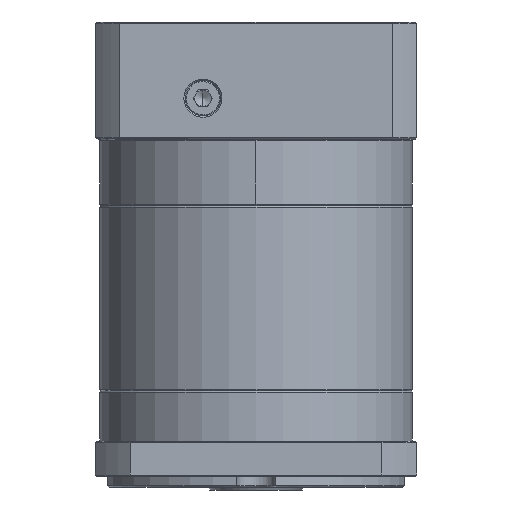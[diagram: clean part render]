
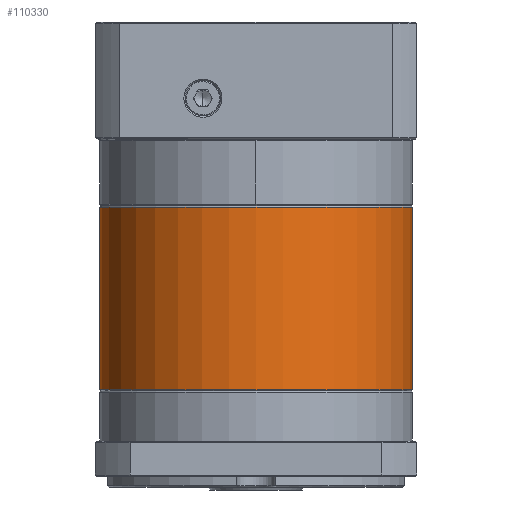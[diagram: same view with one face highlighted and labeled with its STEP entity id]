
A CAD part, front view. The second image highlights one B-rep face of the part: STEP entity #110330.
In plain terms, the highlighted cylindrical face has radius 57.5 mm (diameter 115 mm), a partial arc.
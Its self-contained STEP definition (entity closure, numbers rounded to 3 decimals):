
#1771 = AXIS2_PLACEMENT_3D ( 'NONE', #59932, #118672, #89712 ) ;
#6125 = DIRECTION ( 'NONE',  ( -1., 0., 0. ) ) ;
#9706 = CARTESIAN_POINT ( 'NONE',  ( 61.536, -22.058, -66.926 ) ) ;
#11504 = VERTEX_POINT ( 'NONE', #69268 ) ;
#18648 = DIRECTION ( 'NONE',  ( 0., 0., -1. ) ) ;
#19095 = EDGE_CURVE ( 'NONE', #11504, #117224, #102400, .T. ) ;
#22391 = ORIENTED_EDGE ( 'NONE', *, *, #19095, .F. ) ;
#26003 = VECTOR ( 'NONE', #111933, 1000. ) ;
#28612 = EDGE_CURVE ( 'NONE', #11504, #52255, #62742, .T. ) ;
#28792 = CARTESIAN_POINT ( 'NONE',  ( 119.036, 35.442, -134.138 ) ) ;
#29790 = VECTOR ( 'NONE', #18648, 1000. ) ;
#30755 = CARTESIAN_POINT ( 'NONE',  ( 4.036, 35.442, -134.138 ) ) ;
#33571 = DIRECTION ( 'NONE',  ( 0., 0., -1. ) ) ;
#33998 = CARTESIAN_POINT ( 'NONE',  ( 61.536, 35.442, -66.426 ) ) ;
#38346 = DIRECTION ( 'NONE',  ( -1., 0., 0. ) ) ;
#40270 = VERTEX_POINT ( 'NONE', #110395 ) ;
#46552 = ORIENTED_EDGE ( 'NONE', *, *, #53340, .T. ) ;
#52255 = VERTEX_POINT ( 'NONE', #9706 ) ;
#53340 = EDGE_CURVE ( 'NONE', #40270, #117641, #112630, .T. ) ;
#56429 = EDGE_LOOP ( 'NONE', ( #22391, #97720, #70170, #46552, #82018 ) ) ;
#57823 = CARTESIAN_POINT ( 'NONE',  ( 61.536, 35.442, -134.138 ) ) ;
#57977 = CARTESIAN_POINT ( 'NONE',  ( 119.036, 35.442, -66.426 ) ) ;
#58875 = AXIS2_PLACEMENT_3D ( 'NONE', #105416, #74324, #6125 ) ;
#59932 = CARTESIAN_POINT ( 'NONE',  ( 61.536, 35.442, -66.926 ) ) ;
#62742 = CIRCLE ( 'NONE', #58875, 57.5 ) ;
#69268 = CARTESIAN_POINT ( 'NONE',  ( 119.036, 35.442, -66.926 ) ) ;
#70170 = ORIENTED_EDGE ( 'NONE', *, *, #79948, .T. ) ;
#74324 = DIRECTION ( 'NONE',  ( 0., 0., -1. ) ) ;
#79948 = EDGE_CURVE ( 'NONE', #52255, #40270, #112789, .T. ) ;
#82018 = ORIENTED_EDGE ( 'NONE', *, *, #95721, .T. ) ;
#88846 = DIRECTION ( 'NONE',  ( 0., 0., 1. ) ) ;
#89712 = DIRECTION ( 'NONE',  ( -1., 0., 0. ) ) ;
#95721 = EDGE_CURVE ( 'NONE', #117641, #117224, #114222, .T. ) ;
#96176 = AXIS2_PLACEMENT_3D ( 'NONE', #33998, #33571, #101392 ) ;
#97720 = ORIENTED_EDGE ( 'NONE', *, *, #28612, .T. ) ;
#101392 = DIRECTION ( 'NONE',  ( -1., 0., 0. ) ) ;
#102400 = LINE ( 'NONE', #57977, #29790 ) ;
#105416 = CARTESIAN_POINT ( 'NONE',  ( 61.536, 35.442, -66.926 ) ) ;
#110330 = ADVANCED_FACE ( 'NONE', ( #122334 ), #116168, .T. ) ;
#110395 = CARTESIAN_POINT ( 'NONE',  ( 4.036, 35.442, -66.926 ) ) ;
#111933 = DIRECTION ( 'NONE',  ( 0., 0., -1. ) ) ;
#112630 = LINE ( 'NONE', #122263, #26003 ) ;
#112789 = CIRCLE ( 'NONE', #1771, 57.5 ) ;
#114222 = CIRCLE ( 'NONE', #123772, 57.5 ) ;
#116168 = CYLINDRICAL_SURFACE ( 'NONE', #96176, 57.5 ) ;
#117224 = VERTEX_POINT ( 'NONE', #28792 ) ;
#117641 = VERTEX_POINT ( 'NONE', #30755 ) ;
#118672 = DIRECTION ( 'NONE',  ( 0., 0., -1. ) ) ;
#122263 = CARTESIAN_POINT ( 'NONE',  ( 4.036, 35.442, -66.426 ) ) ;
#122334 = FACE_OUTER_BOUND ( 'NONE', #56429, .T. ) ;
#123772 = AXIS2_PLACEMENT_3D ( 'NONE', #57823, #88846, #38346 ) ;
